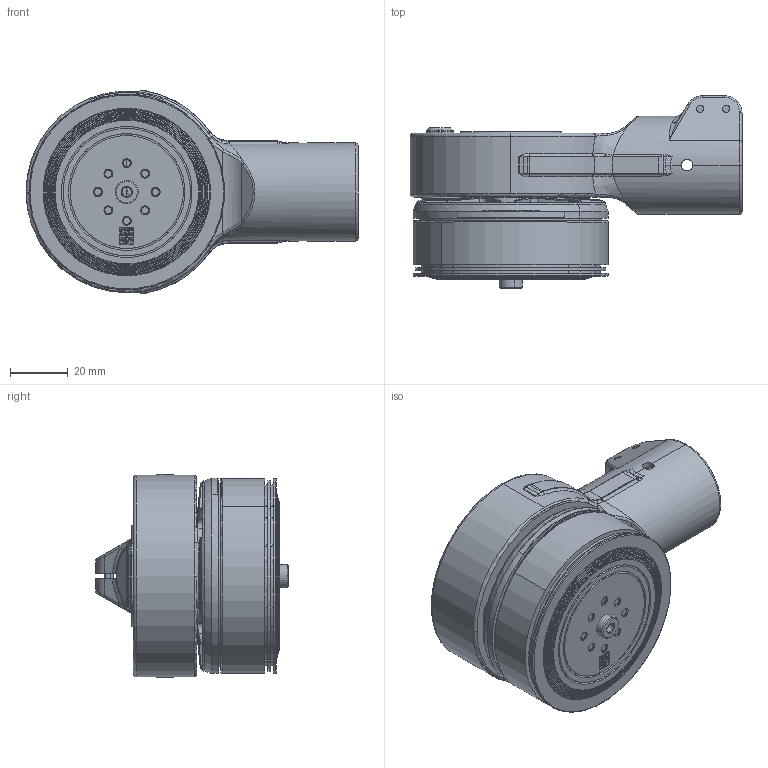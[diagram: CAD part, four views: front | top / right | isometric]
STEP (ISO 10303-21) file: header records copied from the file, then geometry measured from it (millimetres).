
FILE_DESCRIPTION (( 'STEP AP203' ), '1' );
FILE_NAME ('CM-H6M-6210-130KV-D30-CW&CCW-窪-衄&拸梓-HW.STEP', '2023-03-25T09:58:50', ( '' ), ( '' ), 'SwSTEP 2.0', 'SolidWorks 2021', '' );
FILE_SCHEMA (( 'CONFIG_CONTROL_DESIGN' ));
Length unit declared in the file: millimetre
Products named in the file (1): CM-H6M-6210-130KV-D30-CW&CCW-窪-衄&拸梓-HW
Bounding box: 114.85 x 66.55 x 70.25 mm (x, y, z)
Volume: 187845.8 mm3; surface area: 47364.2 mm2
Topology: 3 solids, 16 shells, 1883 faces, 4799 edges, 2929 vertices
Faces by surface type: plane 943, cylinder 449, cone 213, bspline 192, torus 86
Entity records: 69093 total; most frequent: CARTESIAN_POINT 25190, ORIENTED_EDGE 9556, DIRECTION 8697, EDGE_CURVE 4778, AXIS2_PLACEMENT_3D 3125, VERTEX_POINT 2929, LINE 2447, VECTOR 2447
